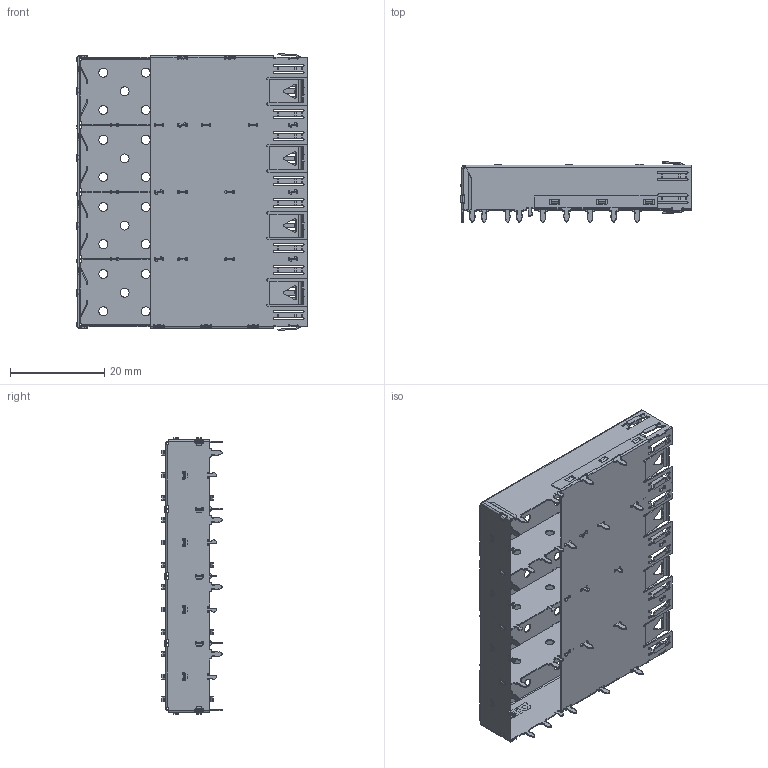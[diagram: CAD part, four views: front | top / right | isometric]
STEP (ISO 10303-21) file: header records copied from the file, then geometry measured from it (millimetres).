
FILE_DESCRIPTION (( 'STEP AP214' ), '1' );
FILE_NAME ('SA40-0000010000-0000-X.STEP', '2020-07-09T00:33:52', ( '' ), ( '' ), 'SwSTEP 2.0', 'SolidWorks 2012', '' );
FILE_SCHEMA (( 'AUTOMOTIVE_DESIGN' ));
Length unit declared in the file: millimetre
Products named in the file (7): SA40-0000010000-0000-X; SS20-S130-1_pin to pin-ass''y; SS40-S120_Panel Spring-Flat; SS20-S130-1_2.25-pressfit 5pin-ass''y; SS20-S130-1_2.25-pressfit 4pin-ass''y; SS40-S110-1_2.25-圓孔-Panel Spring-ass''y; SS20-S140_1x4 ass''y
Assembly tree (6 placements, depth 2):
  SA40-0000010000-0000-X
    SS40-S110-1_2.25-圓孔-Panel Spring-ass''y
    SS40-S120_Panel Spring-Flat
    SS20-S130-1_pin to pin-ass''y
    SS20-S130-1_2.25-pressfit 4pin-ass''y
    SS20-S130-1_2.25-pressfit 5pin-ass''y
    SS20-S140_1x4 ass''y
Bounding box: 48.97 x 12.8 x 58.75 mm (x, y, z)
Volume: 1836.1 mm3; surface area: 15439.3 mm2
Topology: 6 solids, 6 shells, 3931 faces, 10625 edges, 6694 vertices
Faces by surface type: plane 1929, cylinder 1844, bspline 134, torus 24
Entity records: 130357 total; most frequent: CARTESIAN_POINT 30027, ORIENTED_EDGE 21250, DIRECTION 21043, EDGE_CURVE 10625, AXIS2_PLACEMENT_3D 7296, VERTEX_POINT 6694, VECTOR 6451, LINE 6451
